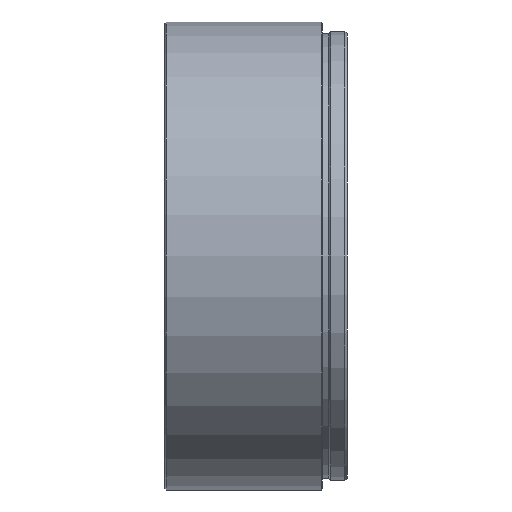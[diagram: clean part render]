
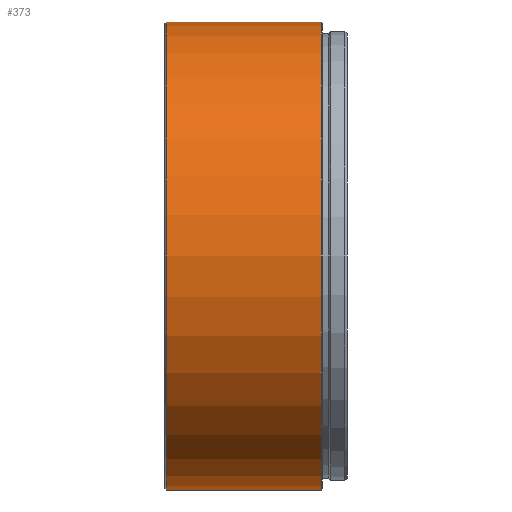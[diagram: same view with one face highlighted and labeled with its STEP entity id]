
A CAD part, front view. The second image highlights one B-rep face of the part: STEP entity #373.
In plain terms, the highlighted cylindrical face has radius 37.5 mm (diameter 75 mm), a partial arc.
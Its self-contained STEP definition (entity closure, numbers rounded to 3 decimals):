
#20 = VECTOR ( 'NONE', #708, 1000. ) ;
#35 = CARTESIAN_POINT ( 'NONE',  ( 25.04, 0., 37.5 ) ) ;
#46 = CARTESIAN_POINT ( 'NONE',  ( 0., 0., 0. ) ) ;
#59 = CIRCLE ( 'NONE', #601, 37.5 ) ;
#71 = CARTESIAN_POINT ( 'NONE',  ( 25.04, 0., -37.5 ) ) ;
#75 = ORIENTED_EDGE ( 'NONE', *, *, #220, .F. ) ;
#114 = DIRECTION ( 'NONE',  ( 0., 0., 1. ) ) ;
#124 = DIRECTION ( 'NONE',  ( -1., 0., 0. ) ) ;
#180 = ORIENTED_EDGE ( 'NONE', *, *, #543, .T. ) ;
#182 = CARTESIAN_POINT ( 'NONE',  ( 0.2, 0., 0. ) ) ;
#220 = EDGE_CURVE ( 'NONE', #534, #665, #383, .T. ) ;
#240 = CIRCLE ( 'NONE', #796, 37.5 ) ;
#328 = CARTESIAN_POINT ( 'NONE',  ( 0.2, 0., -37.5 ) ) ;
#329 = DIRECTION ( 'NONE',  ( 0., 0., 1. ) ) ;
#338 = EDGE_LOOP ( 'NONE', ( #75, #497, #180, #548 ) ) ;
#339 = DIRECTION ( 'NONE',  ( -1., 0., 0. ) ) ;
#373 = ADVANCED_FACE ( 'NONE', ( #607 ), #798, .T. ) ;
#383 = LINE ( 'NONE', #846, #20 ) ;
#411 = CARTESIAN_POINT ( 'NONE',  ( 25.04, 0., 0. ) ) ;
#450 = VERTEX_POINT ( 'NONE', #874 ) ;
#473 = DIRECTION ( 'NONE',  ( 0., 0., 1. ) ) ;
#497 = ORIENTED_EDGE ( 'NONE', *, *, #582, .T. ) ;
#519 = DIRECTION ( 'NONE',  ( -1., 0., 0. ) ) ;
#534 = VERTEX_POINT ( 'NONE', #71 ) ;
#543 = EDGE_CURVE ( 'NONE', #688, #450, #826, .T. ) ;
#548 = ORIENTED_EDGE ( 'NONE', *, *, #635, .F. ) ;
#582 = EDGE_CURVE ( 'NONE', #534, #688, #59, .T. ) ;
#601 = AXIS2_PLACEMENT_3D ( 'NONE', #411, #339, #473 ) ;
#607 = FACE_OUTER_BOUND ( 'NONE', #338, .T. ) ;
#627 = DIRECTION ( 'NONE',  ( -1., 0., 0. ) ) ;
#635 = EDGE_CURVE ( 'NONE', #665, #450, #240, .T. ) ;
#642 = VECTOR ( 'NONE', #627, 1000. ) ;
#665 = VERTEX_POINT ( 'NONE', #328 ) ;
#688 = VERTEX_POINT ( 'NONE', #35 ) ;
#703 = CARTESIAN_POINT ( 'NONE',  ( 0., 0., 37.5 ) ) ;
#708 = DIRECTION ( 'NONE',  ( -1., 0., 0. ) ) ;
#719 = AXIS2_PLACEMENT_3D ( 'NONE', #46, #124, #329 ) ;
#796 = AXIS2_PLACEMENT_3D ( 'NONE', #182, #519, #114 ) ;
#798 = CYLINDRICAL_SURFACE ( 'NONE', #719, 37.5 ) ;
#826 = LINE ( 'NONE', #703, #642 ) ;
#846 = CARTESIAN_POINT ( 'NONE',  ( 0., 0., -37.5 ) ) ;
#874 = CARTESIAN_POINT ( 'NONE',  ( 0.2, 0., 37.5 ) ) ;
